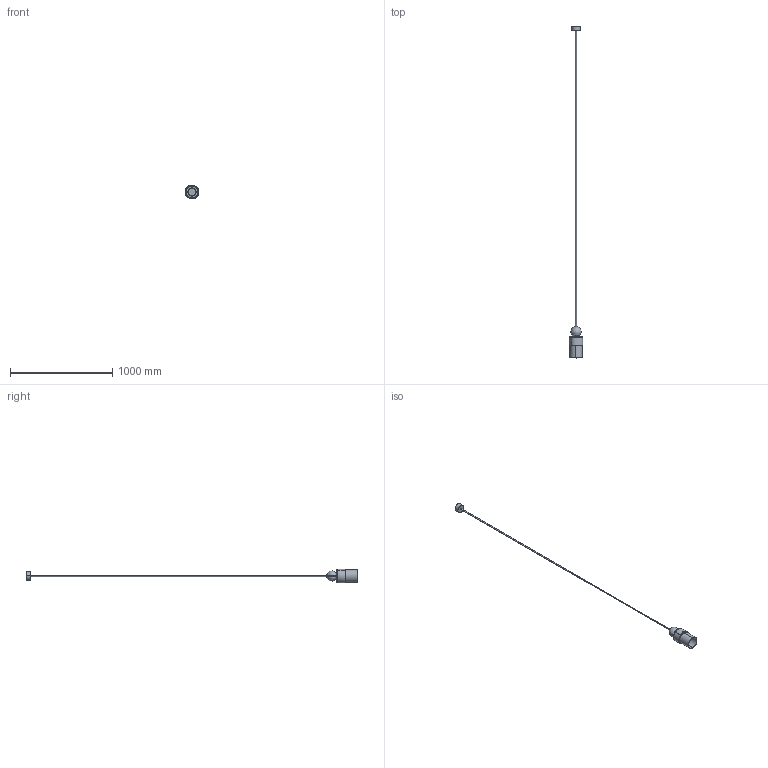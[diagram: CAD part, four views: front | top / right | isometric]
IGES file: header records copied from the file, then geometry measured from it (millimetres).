
Start section: SolidWorks IGES file using analytic representation for surfaces
Global section: file name: C:\Users\Agus\Desktop\NOVEDADES_2023_1\GLAMM_C1130\3D\GLAMM_C1130.IGS; native system: SolidWorks 2018; preprocessor: SolidWorks 2018; author: Agus; date: 230214.130812; units: millimetre
Bounding box: 133.92 x 3246 x 133.93 mm (x, y, z)
Surface area: 453252.8 mm2 (no closed solid volume)
Topology: 0 solids, 0 shells, 122 faces, 2426 edges, 2420 vertices
Faces by surface type: bspline 116, revolution 6
